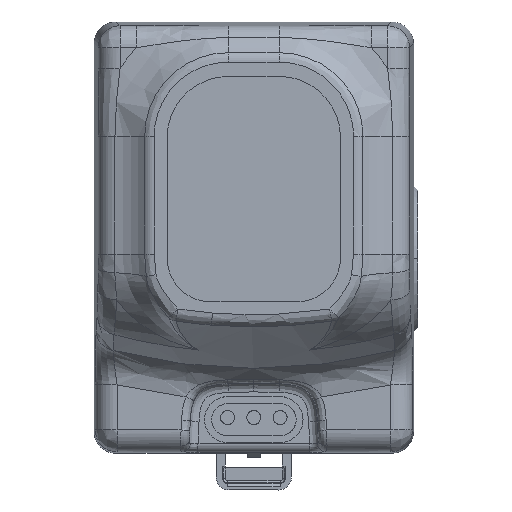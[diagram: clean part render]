
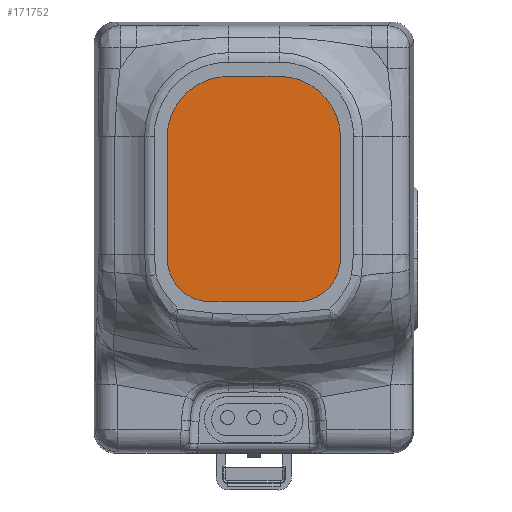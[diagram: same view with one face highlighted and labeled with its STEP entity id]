
A CAD part, top view. The second image highlights one B-rep face of the part: STEP entity #171752.
In plain terms, the highlighted planar face has unit normal (0, 0, 1).
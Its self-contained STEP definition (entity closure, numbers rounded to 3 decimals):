
#1202 = VECTOR ( 'NONE', #122195, 1000. ) ;
#4922 = ORIENTED_EDGE ( 'NONE', *, *, #27640, .T. ) ;
#11697 = VECTOR ( 'NONE', #162138, 1000. ) ;
#21023 = DIRECTION ( 'NONE',  ( 0., 0., 1. ) ) ;
#21955 = EDGE_CURVE ( 'NONE', #118980, #124912, #51322, .T. ) ;
#22832 = CARTESIAN_POINT ( 'NONE',  ( 9.8, 1456.625, 43.2 ) ) ;
#27640 = EDGE_CURVE ( 'NONE', #106091, #41110, #50066, .T. ) ;
#28304 = AXIS2_PLACEMENT_3D ( 'NONE', #168279, #182297, #94790 ) ;
#28473 = VERTEX_POINT ( 'NONE', #34040 ) ;
#28595 = ORIENTED_EDGE ( 'NONE', *, *, #85731, .F. ) ;
#34040 = CARTESIAN_POINT ( 'NONE',  ( -19.8, 1429.125, 43.2 ) ) ;
#34509 = LINE ( 'NONE', #103585, #11697 ) ;
#41110 = VERTEX_POINT ( 'NONE', #123492 ) ;
#41682 = AXIS2_PLACEMENT_3D ( 'NONE', #167084, #127075, #57195 ) ;
#49201 = CIRCLE ( 'NONE', #28304, 14. ) ;
#50066 = CIRCLE ( 'NONE', #165959, 10. ) ;
#50907 = ORIENTED_EDGE ( 'NONE', *, *, #161929, .T. ) ;
#51322 = LINE ( 'NONE', #147356, #126445 ) ;
#57195 = DIRECTION ( 'NONE',  ( 1., 0., 0. ) ) ;
#60918 = DIRECTION ( 'NONE',  ( 1., 0., 0. ) ) ;
#64018 = VECTOR ( 'NONE', #93295, 1000. ) ;
#68487 = CARTESIAN_POINT ( 'NONE',  ( 19.8, 1429.125, 43.2 ) ) ;
#69495 = EDGE_CURVE ( 'NONE', #28473, #41110, #152849, .T. ) ;
#74604 = DIRECTION ( 'NONE',  ( 0., 0., 1. ) ) ;
#76543 = EDGE_CURVE ( 'NONE', #28473, #124912, #95147, .T. ) ;
#81105 = ORIENTED_EDGE ( 'NONE', *, *, #76543, .T. ) ;
#81746 = EDGE_CURVE ( 'NONE', #118980, #154103, #49201, .T. ) ;
#85731 = EDGE_CURVE ( 'NONE', #106091, #120713, #34509, .T. ) ;
#87377 = CARTESIAN_POINT ( 'NONE',  ( 5.8, 1415.125, 43.2 ) ) ;
#88958 = CIRCLE ( 'NONE', #121653, 10. ) ;
#93295 = DIRECTION ( 'NONE',  ( 0., -1., 0. ) ) ;
#94790 = DIRECTION ( 'NONE',  ( 1., 0., 0. ) ) ;
#95147 = CIRCLE ( 'NONE', #41682, 14. ) ;
#96028 = LINE ( 'NONE', #164044, #64018 ) ;
#102591 = DIRECTION ( 'NONE',  ( 1., 0., 0. ) ) ;
#103585 = CARTESIAN_POINT ( 'NONE',  ( 9.8, 1466.625, 43.2 ) ) ;
#106091 = VERTEX_POINT ( 'NONE', #141766 ) ;
#107588 = FACE_OUTER_BOUND ( 'NONE', #173056, .T. ) ;
#109116 = CARTESIAN_POINT ( 'NONE',  ( -19.8, 1456.625, 43.2 ) ) ;
#115021 = VERTEX_POINT ( 'NONE', #158964 ) ;
#118980 = VERTEX_POINT ( 'NONE', #87377 ) ;
#120713 = VERTEX_POINT ( 'NONE', #142917 ) ;
#121653 = AXIS2_PLACEMENT_3D ( 'NONE', #22832, #21023, #179386 ) ;
#122195 = DIRECTION ( 'NONE',  ( 0., 1., 0. ) ) ;
#122643 = AXIS2_PLACEMENT_3D ( 'NONE', #143522, #74604, #102591 ) ;
#123492 = CARTESIAN_POINT ( 'NONE',  ( -19.8, 1456.625, 43.2 ) ) ;
#124912 = VERTEX_POINT ( 'NONE', #162740 ) ;
#126445 = VECTOR ( 'NONE', #163108, 1000. ) ;
#127075 = DIRECTION ( 'NONE',  ( 0., 0., 1. ) ) ;
#131679 = CARTESIAN_POINT ( 'NONE',  ( -9.8, 1456.625, 43.2 ) ) ;
#137996 = ORIENTED_EDGE ( 'NONE', *, *, #69495, .F. ) ;
#139996 = EDGE_CURVE ( 'NONE', #115021, #154103, #96028, .T. ) ;
#141766 = CARTESIAN_POINT ( 'NONE',  ( -9.8, 1466.625, 43.2 ) ) ;
#142917 = CARTESIAN_POINT ( 'NONE',  ( 9.8, 1466.625, 43.2 ) ) ;
#143522 = CARTESIAN_POINT ( 'NONE',  ( 22.762, 1455.749, 43.2 ) ) ;
#147356 = CARTESIAN_POINT ( 'NONE',  ( 5.8, 1415.125, 43.2 ) ) ;
#152849 = LINE ( 'NONE', #109116, #1202 ) ;
#154103 = VERTEX_POINT ( 'NONE', #68487 ) ;
#158964 = CARTESIAN_POINT ( 'NONE',  ( 19.8, 1456.625, 43.2 ) ) ;
#158982 = ORIENTED_EDGE ( 'NONE', *, *, #21955, .F. ) ;
#161929 = EDGE_CURVE ( 'NONE', #115021, #120713, #88958, .T. ) ;
#162138 = DIRECTION ( 'NONE',  ( 1., 0., 0. ) ) ;
#162740 = CARTESIAN_POINT ( 'NONE',  ( -5.8, 1415.125, 43.2 ) ) ;
#163108 = DIRECTION ( 'NONE',  ( -1., 0., 0. ) ) ;
#164044 = CARTESIAN_POINT ( 'NONE',  ( 19.8, 1456.625, 43.2 ) ) ;
#164331 = PLANE ( 'NONE',  #122643 ) ;
#165959 = AXIS2_PLACEMENT_3D ( 'NONE', #131679, #175458, #60918 ) ;
#167084 = CARTESIAN_POINT ( 'NONE',  ( -5.8, 1429.125, 43.2 ) ) ;
#168279 = CARTESIAN_POINT ( 'NONE',  ( 5.8, 1429.125, 43.2 ) ) ;
#171662 = ORIENTED_EDGE ( 'NONE', *, *, #81746, .T. ) ;
#171752 = ADVANCED_FACE ( 'NONE', ( #107588 ), #164331, .T. ) ;
#173056 = EDGE_LOOP ( 'NONE', ( #81105, #158982, #171662, #178943, #50907, #28595, #4922, #137996 ) ) ;
#175458 = DIRECTION ( 'NONE',  ( 0., 0., 1. ) ) ;
#178943 = ORIENTED_EDGE ( 'NONE', *, *, #139996, .F. ) ;
#179386 = DIRECTION ( 'NONE',  ( 1., 0., 0. ) ) ;
#182297 = DIRECTION ( 'NONE',  ( 0., 0., 1. ) ) ;
